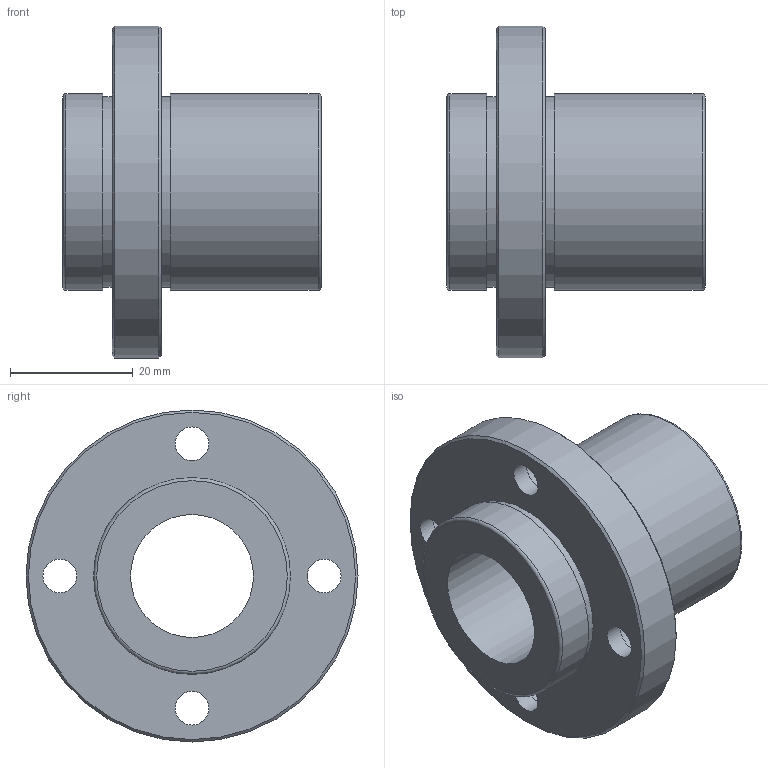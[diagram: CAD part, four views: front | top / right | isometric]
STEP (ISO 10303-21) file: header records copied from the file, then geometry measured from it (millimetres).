
FILE_DESCRIPTION(('STEP AP203'),'1');
FILE_NAME('//192.168.1.1/share/s-4 技術開発/s-4-4_CAD/s-4-4-3_見直し済み/002 修正済み/NFID-V/NFID-V_TOP/NFID-20VUU.step','2022-03-08T02:18:51',(' '),(' '),'Spatial InterOp 3D',' ',' ');
FILE_SCHEMA(('CONFIG_CONTROL_DESIGN'));
Length unit declared in the file: millimetre
Products named in the file (1): 1
Bounding box: 42 x 54 x 54 mm (x, y, z)
Volume: 30712 mm3; surface area: 12018.7 mm2
Topology: 1 solids, 1 shells, 28 faces, 58 edges, 40 vertices
Faces by surface type: cylinder 14, plane 10, torus 2, cone 2
Full cylindrical faces by diameter (mm): 5.5 x4, 9 x4, 20 x1, 31 x2, 32 x2, 54 x1
Entity records: 668 total; most frequent: DIRECTION 122, CARTESIAN_POINT 93, EDGE_LOOP 64, ORIENTED_EDGE 64, AXIS2_PLACEMENT_3D 61, FACE_OUTER_BOUND 44, EDGE_CURVE 32, VERTEX_POINT 32
